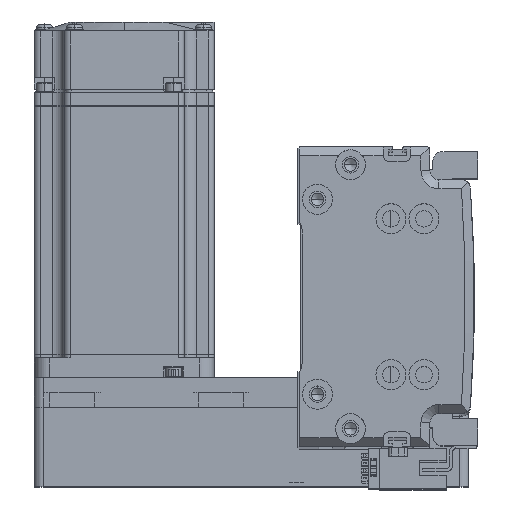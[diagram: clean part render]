
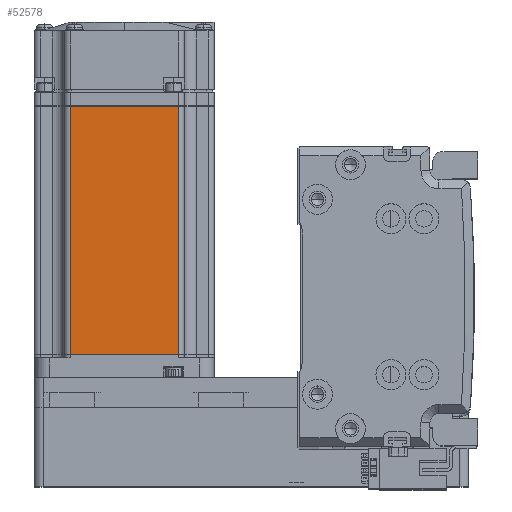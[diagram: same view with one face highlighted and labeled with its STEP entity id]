
A CAD part, top view. The second image highlights one B-rep face of the part: STEP entity #52578.
In plain terms, the highlighted planar face has unit normal (0, 0, 1).
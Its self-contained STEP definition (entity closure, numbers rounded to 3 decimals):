
#1970 = LINE ( 'NONE', #8635, #49414 ) ;
#2684 = CARTESIAN_POINT ( 'NONE',  ( -90.45, -25., 30. ) ) ;
#3070 = CARTESIAN_POINT ( 'NONE',  ( -90.45, -18., 30. ) ) ;
#5195 = EDGE_LOOP ( 'NONE', ( #24281, #33262, #7886, #48836 ) ) ;
#7382 = EDGE_CURVE ( 'NONE', #10316, #17016, #14512, .T. ) ;
#7399 = EDGE_CURVE ( 'NONE', #27730, #10316, #1970, .T. ) ;
#7886 = ORIENTED_EDGE ( 'NONE', *, *, #31380, .T. ) ;
#8635 = CARTESIAN_POINT ( 'NONE',  ( -7.75, -25., 30. ) ) ;
#8999 = AXIS2_PLACEMENT_3D ( 'NONE', #10571, #43737, #15314 ) ;
#10316 = VERTEX_POINT ( 'NONE', #34724 ) ;
#10571 = CARTESIAN_POINT ( 'NONE',  ( -6.5, -25., 30. ) ) ;
#13048 = VECTOR ( 'NONE', #30681, 1000. ) ;
#14512 = LINE ( 'NONE', #27475, #13048 ) ;
#15314 = DIRECTION ( 'NONE',  ( 1., 0., 0. ) ) ;
#17016 = VERTEX_POINT ( 'NONE', #36118 ) ;
#17141 = DIRECTION ( 'NONE',  ( 0., -1., 0. ) ) ;
#18134 = DIRECTION ( 'NONE',  ( 0., 1., 0. ) ) ;
#24281 = ORIENTED_EDGE ( 'NONE', *, *, #7399, .T. ) ;
#27475 = CARTESIAN_POINT ( 'NONE',  ( -6.5, 18., 30. ) ) ;
#27649 = FACE_OUTER_BOUND ( 'NONE', #5195, .T. ) ;
#27730 = VERTEX_POINT ( 'NONE', #37778 ) ;
#30681 = DIRECTION ( 'NONE',  ( -1., 0., 0. ) ) ;
#31380 = EDGE_CURVE ( 'NONE', #17016, #56032, #53984, .T. ) ;
#33262 = ORIENTED_EDGE ( 'NONE', *, *, #7382, .T. ) ;
#33289 = CARTESIAN_POINT ( 'NONE',  ( -6.5, -18., 30. ) ) ;
#34724 = CARTESIAN_POINT ( 'NONE',  ( -7.75, 18., 30. ) ) ;
#35481 = VECTOR ( 'NONE', #38037, 1000. ) ;
#36118 = CARTESIAN_POINT ( 'NONE',  ( -90.45, 18., 30. ) ) ;
#36967 = LINE ( 'NONE', #33289, #35481 ) ;
#37778 = CARTESIAN_POINT ( 'NONE',  ( -7.75, -18., 30. ) ) ;
#38037 = DIRECTION ( 'NONE',  ( 1., 0., 0. ) ) ;
#41346 = VECTOR ( 'NONE', #17141, 1000. ) ;
#43737 = DIRECTION ( 'NONE',  ( 0., 0., 1. ) ) ;
#48836 = ORIENTED_EDGE ( 'NONE', *, *, #56569, .T. ) ;
#49414 = VECTOR ( 'NONE', #18134, 1000. ) ;
#52578 = ADVANCED_FACE ( 'NONE', ( #27649 ), #53040, .T. ) ;
#53040 = PLANE ( 'NONE',  #8999 ) ;
#53984 = LINE ( 'NONE', #2684, #41346 ) ;
#56032 = VERTEX_POINT ( 'NONE', #3070 ) ;
#56569 = EDGE_CURVE ( 'NONE', #56032, #27730, #36967, .T. ) ;
